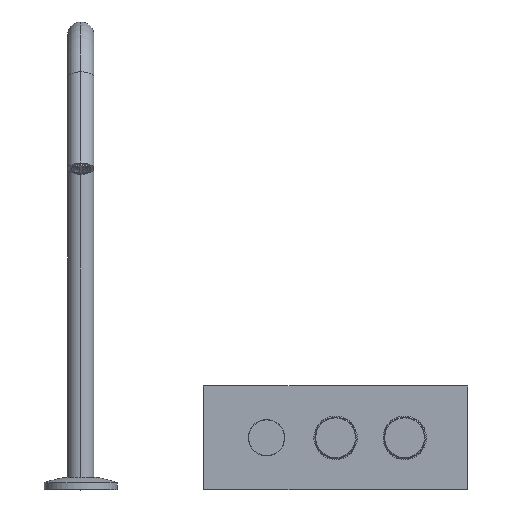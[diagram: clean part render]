
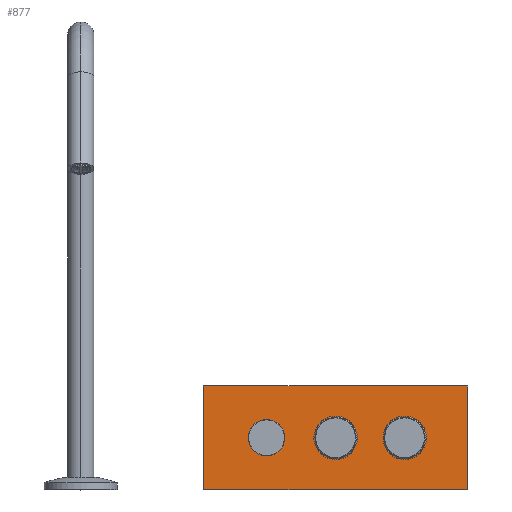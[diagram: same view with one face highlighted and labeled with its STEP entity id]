
A CAD part, top view. The second image highlights one B-rep face of the part: STEP entity #877.
In plain terms, the highlighted planar face has unit normal (0, 0, 1).
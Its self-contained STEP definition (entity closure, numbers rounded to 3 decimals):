
#176=DIRECTION('',(-1.,0.,0.));
#177=VECTOR('',#176,179.5);
#178=CARTESIAN_POINT('',(113.25,35.25,92.5));
#179=LINE('',#178,#177);
#180=DIRECTION('',(0.,1.,0.));
#181=VECTOR('',#180,70.5);
#182=CARTESIAN_POINT('',(113.25,-35.25,92.5));
#183=LINE('',#182,#181);
#184=DIRECTION('',(1.,0.,0.));
#185=VECTOR('',#184,179.5);
#186=CARTESIAN_POINT('',(-66.25,-35.25,92.5));
#187=LINE('',#186,#185);
#188=DIRECTION('',(0.,-1.,0.));
#189=VECTOR('',#188,70.5);
#190=CARTESIAN_POINT('',(-66.25,35.25,92.5));
#191=LINE('',#190,#189);
#222=CARTESIAN_POINT('',(-23.5,0.,92.5));
#223=DIRECTION('',(0.,0.,1.));
#224=DIRECTION('',(-1.,0.,0.));
#225=AXIS2_PLACEMENT_3D('',#222,#223,#224);
#232=CARTESIAN_POINT('',(-23.5,0.,92.5));
#233=DIRECTION('',(0.,0.,1.));
#234=DIRECTION('',(1.,0.,0.));
#235=AXIS2_PLACEMENT_3D('',#232,#233,#234);
#431=CARTESIAN_POINT('',(113.25,35.25,92.5));
#432=CARTESIAN_POINT('',(-66.25,35.25,92.5));
#433=VERTEX_POINT('',#431);
#434=VERTEX_POINT('',#432);
#447=CARTESIAN_POINT('',(-66.25,-35.25,92.5));
#448=VERTEX_POINT('',#447);
#457=CARTESIAN_POINT('',(113.25,-35.25,92.5));
#458=VERTEX_POINT('',#457);
#523=CARTESIAN_POINT('',(-35.9,0.,92.5));
#524=CARTESIAN_POINT('',(-11.1,0.,92.5));
#525=VERTEX_POINT('',#523);
#526=VERTEX_POINT('',#524);
#858=CARTESIAN_POINT('',(23.5,0.,92.5));
#859=DIRECTION('',(0.,0.,1.));
#860=DIRECTION('',(1.,0.,0.));
#861=AXIS2_PLACEMENT_3D('',#858,#859,#860);
#862=PLANE('',#861);
#863=ORIENTED_EDGE('',*,*,#743,.F.);
#865=ORIENTED_EDGE('',*,*,#864,.F.);
#866=ORIENTED_EDGE('',*,*,#851,.F.);
#868=ORIENTED_EDGE('',*,*,#867,.F.);
#869=EDGE_LOOP('',(#863,#865,#866,#868));
#870=FACE_OUTER_BOUND('',#869,.F.);
#872=ORIENTED_EDGE('',*,*,#871,.T.);
#874=ORIENTED_EDGE('',*,*,#873,.T.);
#875=EDGE_LOOP('',(#872,#874));
#876=FACE_BOUND('',#875,.F.);
#877=ADVANCED_FACE('',(#870,#876),#862,.T.);
#226=CIRCLE('',#225,12.4);
#236=CIRCLE('',#235,12.4);
#743=EDGE_CURVE('',#433,#434,#179,.T.);
#851=EDGE_CURVE('',#448,#458,#187,.T.);
#864=EDGE_CURVE('',#458,#433,#183,.T.);
#867=EDGE_CURVE('',#434,#448,#191,.T.);
#871=EDGE_CURVE('',#525,#526,#226,.T.);
#873=EDGE_CURVE('',#526,#525,#236,.T.);
